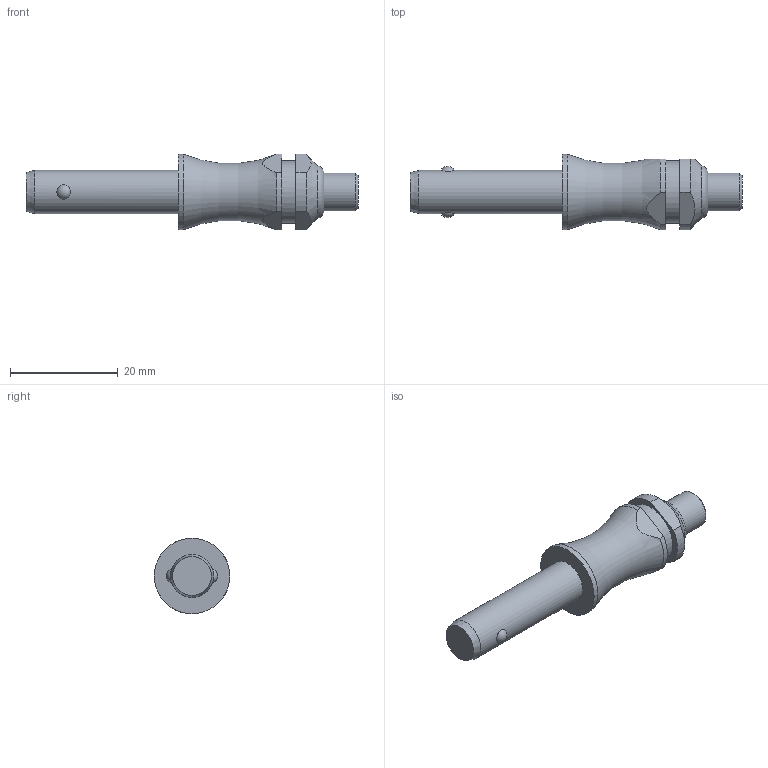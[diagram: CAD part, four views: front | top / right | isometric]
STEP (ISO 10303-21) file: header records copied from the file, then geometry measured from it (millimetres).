
FILE_DESCRIPTION( ( 'STEP AP203' ), '1' );
FILE_NAME( 'C:/Temp/Ganter_Step_05_03_2020/data/3_1/gn113_3/Stainless Steel-Ball lock pin GN 113.3-8-20 (deactivated).stp', '2020-03-12T08:18:23', ( 'License CC BY-ND 4.0' ), ( 'CADENAS' ), ' ', 'PARTsolutions', ' ' );
FILE_SCHEMA( ( 'CONFIG_CONTROL_DESIGN' ) );
Length unit declared in the file: millimetre
Products named in the file (1): _Stainless Steel-Ball lock pin GN 113.3-8-20 (deactivated)
Bounding box: 61.5 x 14 x 14 mm (x, y, z)
Volume: 4637.3 mm3; surface area: 2166 mm2
Topology: 1 solids, 1 shells, 28 faces, 60 edges, 39 vertices
Faces by surface type: plane 11, cylinder 10, cone 3, torus 2, sphere 2
Full cylindrical faces by diameter (mm): 7 x1, 8 x1, 11.6 x1, 14 x1
Entity records: 916 total; most frequent: CARTESIAN_POINT 303, DIRECTION 122, ORIENTED_EDGE 98, AXIS2_PLACEMENT_3D 52, EDGE_CURVE 49, EDGE_LOOP 42, VERTEX_POINT 37, FACE_OUTER_BOUND 34
